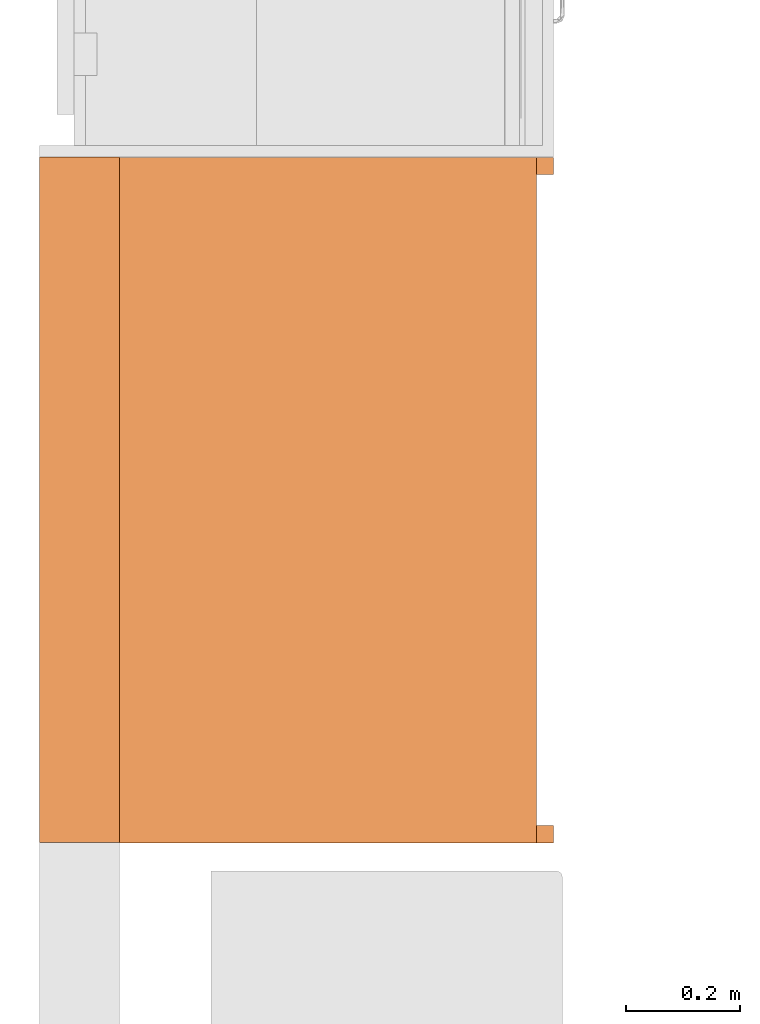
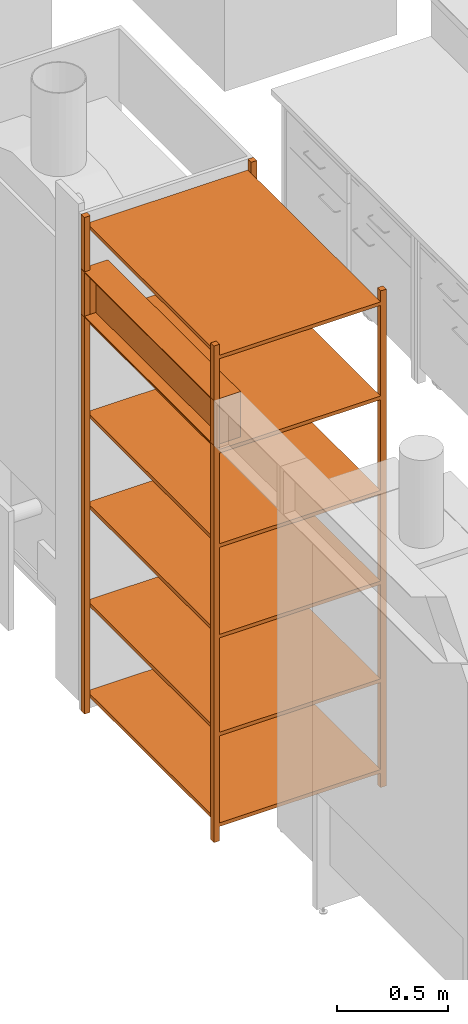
# One storey, part 3 of 43: 2 proxies.
"""IFC2X3 building model written with IfcOpenShell, lengths in metres."""

from ifc_helpers import new_model, entity, si_unit, converted_unit, derived_unit, direction, frame, frame_2d, origin, origin_2d_with_axis, place, context, subcontext, project, spatial, rectangle, extrude, source, transform, mapped, material, material_list, type_object, type_shapes, element, save


model = new_model("IFC2X3")

# Units and contexts
model_context = context("Model", 3, precision=1e-05, world=origin(), true_north=direction((6.12303176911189e-17, 1.0)))
body_context = subcontext(model_context, "Body", "Model", "MODEL_VIEW")
ifc_project = project(units=[si_unit("LENGTHUNIT", "METRE"), si_unit("AREAUNIT", "SQUARE_METRE"), si_unit("VOLUMEUNIT", "CUBIC_METRE"), converted_unit("PLANEANGLEUNIT", "DEGREE", entity("IfcRatioMeasure", 0.0174532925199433), si_unit("PLANEANGLEUNIT", "RADIAN"), dimensions=[0, 0, 0, 0, 0, 0, 0]), si_unit("MASSUNIT", "GRAM", prefix="KILO"), derived_unit("MASSDENSITYUNIT", [(si_unit("MASSUNIT", "GRAM", prefix="KILO"), 1), (si_unit("LENGTHUNIT", "METRE"), -3)]), derived_unit("MOMENTOFINERTIAUNIT", [(si_unit("LENGTHUNIT", "METRE"), 4)]), si_unit("TIMEUNIT", "SECOND"), si_unit("FREQUENCYUNIT", "HERTZ"), si_unit("THERMODYNAMICTEMPERATUREUNIT", "DEGREE_CELSIUS"), derived_unit("THERMALTRANSMITTANCEUNIT", [(si_unit("MASSUNIT", "GRAM", prefix="KILO"), 1), (si_unit("THERMODYNAMICTEMPERATUREUNIT", "KELVIN"), -1), (si_unit("TIMEUNIT", "SECOND"), -3)]), derived_unit("VOLUMETRICFLOWRATEUNIT", [(si_unit("LENGTHUNIT", "METRE"), 3), (si_unit("TIMEUNIT", "SECOND"), -1)]), si_unit("ELECTRICCURRENTUNIT", "AMPERE"), si_unit("ELECTRICVOLTAGEUNIT", "VOLT"), si_unit("POWERUNIT", "WATT"), si_unit("FORCEUNIT", "NEWTON", prefix="KILO"), si_unit("ILLUMINANCEUNIT", "LUX"), si_unit("LUMINOUSFLUXUNIT", "LUMEN"), si_unit("LUMINOUSINTENSITYUNIT", "CANDELA"), derived_unit("USERDEFINED", [(si_unit("MASSUNIT", "GRAM", prefix="KILO"), -1), (si_unit("LENGTHUNIT", "METRE"), -2), (si_unit("TIMEUNIT", "SECOND"), 3), (si_unit("LUMINOUSFLUXUNIT", "LUMEN"), 1)]), derived_unit("LINEARVELOCITYUNIT", [(si_unit("LENGTHUNIT", "METRE"), 1), (si_unit("TIMEUNIT", "SECOND"), -1)]), si_unit("PRESSUREUNIT", "PASCAL"), derived_unit("USERDEFINED", [(si_unit("LENGTHUNIT", "METRE"), -2), (si_unit("MASSUNIT", "GRAM", prefix="KILO"), 1), (si_unit("TIMEUNIT", "SECOND"), -2)]), derived_unit("LINEARFORCEUNIT", [(si_unit("MASSUNIT", "GRAM", prefix="KILO"), 1), (si_unit("LENGTHUNIT", "METRE"), 1), (si_unit("TIMEUNIT", "SECOND"), -2), (si_unit("LENGTHUNIT", "METRE"), -1)]), derived_unit("PLANARFORCEUNIT", [(si_unit("MASSUNIT", "GRAM", prefix="KILO"), 1), (si_unit("LENGTHUNIT", "METRE"), 1), (si_unit("TIMEUNIT", "SECOND"), -2), (si_unit("LENGTHUNIT", "METRE"), -2)])], contexts=[model_context])

# Site, building, storey
site_placement = place(None, origin())
site = spatial("IfcSite", under=ifc_project, at=site_placement, Name="Default", CompositionType="ELEMENT")
building_placement = place(site_placement, origin())
building = spatial("IfcBuilding", under=site, at=building_placement, CompositionType="ELEMENT")
storey_placement = place(building_placement, frame((0.0, 0.0, 3.0)))
storey = spatial("IfcBuildingStorey", under=building, at=storey_placement, Name="01 OG", CompositionType="ELEMENT", Elevation=3.0)

# Proxies
ifc_material_1 = material(Name="dh_EZ blau")
ifc_material_2 = material(Name="dh_Weiß")
ifc_material_list_1 = material_list([ifc_material_1, ifc_material_2])
ifc_material_3 = material(Name="dh_Blau")
ifc_material_list_2 = material_list([ifc_material_2, ifc_material_3, ifc_material_1])
building_element_proxy_type_1 = type_object("IfcBuildingElementProxyType", Name="dh_Einzel_ MEK:MEK 120", PredefinedType="NOTDEFINED", material=ifc_material_list_2)
shared_shape_1 = source(origin(), body_context, "Body", "SweptSolid", [
    extrude(rectangle(XDim=0.06, YDim=0.0299999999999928, at=origin_2d_with_axis()), frame((0.585000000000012, 0.33, 2.19499999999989), z_axis=(0.0, 0.0, 1.0), x_axis=(0.0, 1.0, 0.0)), (0.0, 0.0, 1.0), 0.240000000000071),
    extrude(rectangle(XDim=0.06, YDim=0.0299999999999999, at=origin_2d_with_axis()), frame((-0.584999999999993, 0.33, 2.19499999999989), z_axis=(0.0, 0.0, 1.0), x_axis=(0.0, 1.0, 0.0)), (0.0, 0.0, 1.0), 0.240000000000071),
    extrude(rectangle(XDim=0.06, YDim=1.20000000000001, at=frame_2d((0.0, -2.05391259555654e-15), x_axis=(1.0, 0.0))), frame((0.0, 0.33, 2.43499999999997), z_axis=(0.0, 0.0, 1.0), x_axis=(0.0, 1.0, 0.0)), (0.0, 0.0, 1.0), 0.00500000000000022),
    extrude(rectangle(XDim=1.20000000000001, YDim=0.14, at=frame_2d((-3.21964677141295e-15, -0.00333333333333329), x_axis=(1.0, 0.0))), frame((0.0, 0.293333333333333, 2.18999999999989)), (0.0, 0.0, 1.0), 0.00499999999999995),
    extrude(rectangle(XDim=0.08, YDim=1.20000000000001, at=frame_2d((0.0133333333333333, 2.55351295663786e-15), x_axis=(1.0, 0.0))), frame((0.0, 0.273333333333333, 2.43499999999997), z_axis=(0.0, 0.0, 1.0), x_axis=(0.0, -1.0, 0.0)), (0.0, 0.0, 1.0), 0.00499999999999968),
    extrude(rectangle(XDim=1.2, YDim=0.08, at=frame_2d((0.0, 3.46944695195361e-17), x_axis=(1.0, 0.0))), frame((0.0, 0.26, 2.195), z_axis=(0.0, 0.0, 1.0), x_axis=(-1.0, 0.0, 0.0)), (0.0, 0.0, 1.0), 0.239999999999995),
])
type_shapes(building_element_proxy_type_1, [shared_shape_1])
proxy_1_placement = place(storey_placement, frame((10.5100000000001, 13.0239999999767, 0.7), z_axis=(0.0, 0.0, 1.0), x_axis=(0.0, 1.0, 0.0)))
element("IfcBuildingElementProxy", 1, at=proxy_1_placement, inside=storey, type_object=building_element_proxy_type_1, material=ifc_material_list_1, Name="dh_Einzel_ MEK:MEK 120", ObjectType="dh_Einzel_ MEK:MEK 120", context=body_context, shape_type="MappedRepresentation", body=[
    mapped(shared_shape_1, transform((0.0, 0.0, 0.0), scale=1.0)),
])
ifc_material_4 = material(Name="Aluminium")
ifc_material_5 = material(Name="UHMW, schwarz")
ifc_material_list_3 = material_list([ifc_material_4, ifc_material_5])
ifc_material_list_4 = material_list([ifc_material_5, ifc_material_4])
building_element_proxy_type_2 = type_object("IfcBuildingElementProxyType", Name="dh_Stahlregal:Stahlregal-FB6-120", PredefinedType="NOTDEFINED", material=ifc_material_list_4)
shared_shape_2 = source(origin(), body_context, "Body", "SweptSolid", [
    extrude(rectangle(XDim=0.840000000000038, YDim=1.2, at=origin_2d_with_axis()), frame((0.0, -0.450000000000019, 0.0800000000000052), z_axis=(0.0, 0.0, 1.0), x_axis=(0.0, 1.0, 0.0)), (0.0, 0.0, 1.0), 0.0199999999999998),
    extrude(rectangle(XDim=0.840000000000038, YDim=1.2, at=origin_2d_with_axis()), frame((0.0, -0.450000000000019, 0.579999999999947), z_axis=(0.0, 0.0, 1.0), x_axis=(0.0, 1.0, 0.0)), (0.0, 0.0, 1.0), 0.0199999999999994),
    extrude(rectangle(XDim=0.840000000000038, YDim=1.2, at=origin_2d_with_axis()), frame((0.0, -0.450000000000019, 1.1199999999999), z_axis=(0.0, 0.0, 1.0), x_axis=(0.0, 1.0, 0.0)), (0.0, 0.0, 1.0), 0.0199999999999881),
    extrude(rectangle(XDim=0.840000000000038, YDim=1.2, at=origin_2d_with_axis()), frame((0.0, -0.450000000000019, 1.61999999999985), z_axis=(0.0, 0.0, 1.0), x_axis=(0.0, 1.0, 0.0)), (0.0, 0.0, 1.0), 0.0200000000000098),
    extrude(rectangle(XDim=0.840000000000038, YDim=1.2, at=origin_2d_with_axis()), frame((0.0, -0.450000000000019, 2.13999999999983), z_axis=(0.0, 0.0, 1.0), x_axis=(0.0, 1.0, 0.0)), (0.0, 0.0, 1.0), 0.0200000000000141),
    extrude(rectangle(XDim=0.840000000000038, YDim=1.2, at=origin_2d_with_axis()), frame((0.0, -0.450000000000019, 2.66), z_axis=(0.0, 0.0, 1.0), x_axis=(0.0, 1.0, 0.0)), (0.0, 0.0, 1.0), 0.0200000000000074),
    extrude(rectangle(XDim=0.0299999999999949, YDim=0.0300000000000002, at=frame_2d((3.38271077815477e-17, 0.0), x_axis=(1.0, 0.0))), frame((-0.585000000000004, -0.885000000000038, 2.735)), (0.0, 0.0, 1.0), 0.00500000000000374),
    extrude(rectangle(XDim=0.0300000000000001, YDim=0.0300000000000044, at=frame_2d((0.0, 6.76542155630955e-17), x_axis=(1.0, 0.0))), frame((0.584999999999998, -0.015, 2.735), z_axis=(0.0, 0.0, 1.0), x_axis=(0.0, 1.0, 0.0)), (0.0, 0.0, 1.0), 0.00500000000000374),
    extrude(rectangle(XDim=0.0299999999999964, YDim=0.03, at=frame_2d((-3.38271077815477e-17, 0.0), x_axis=(1.0, 0.0))), frame((-0.585000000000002, -0.015, 2.735)), (0.0, 0.0, 1.0), 0.00500000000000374),
    extrude(rectangle(XDim=0.0300000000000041, YDim=0.0300000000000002, at=frame_2d((6.76542155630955e-17, 0.0), x_axis=(1.0, 0.0))), frame((0.584999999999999, -0.885000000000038, 2.735)), (0.0, 0.0, 1.0), 0.00500000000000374),
    extrude(rectangle(XDim=0.03, YDim=0.0299999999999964, at=frame_2d((0.0, 3.38271077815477e-17), x_axis=(1.0, 0.0))), frame((-0.585000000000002, -0.015, 0.00499999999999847), z_axis=(0.0, 0.0, 1.0), x_axis=(0.0, -1.0, 0.0)), (0.0, 0.0, 1.0), 2.73),
    extrude(rectangle(XDim=0.0299999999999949, YDim=0.0300000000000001, at=frame_2d((3.38271077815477e-17, -6.76542155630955e-17), x_axis=(1.0, 0.0))), frame((-0.585000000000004, -0.885000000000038, 0.00499999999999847)), (0.0, 0.0, 1.0), 2.73),
    extrude(rectangle(XDim=0.0300000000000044, YDim=0.0300000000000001, at=frame_2d((-6.76542155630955e-17, 0.0), x_axis=(1.0, 0.0))), frame((0.584999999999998, -0.015, 0.00499999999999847)), (0.0, 0.0, 1.0), 2.73),
    extrude(rectangle(XDim=0.0300000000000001, YDim=0.0300000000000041, at=frame_2d((-6.76542155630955e-17, -6.76542155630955e-17), x_axis=(1.0, 0.0))), frame((0.584999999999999, -0.885000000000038, 0.00499999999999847), z_axis=(0.0, 0.0, 1.0), x_axis=(0.0, 1.0, 0.0)), (0.0, 0.0, 1.0), 2.73),
    extrude(rectangle(XDim=0.0300000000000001, YDim=0.0300000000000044, at=origin_2d_with_axis()), frame((0.584999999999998, -0.015, 0.0), z_axis=(0.0, 0.0, 1.0), x_axis=(0.0, -1.0, 0.0)), (0.0, 0.0, 1.0), 0.005),
    extrude(rectangle(XDim=0.0299999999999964, YDim=0.03, at=frame_2d((3.38271077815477e-17, 0.0), x_axis=(1.0, 0.0))), frame((-0.585000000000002, -0.015, 0.0), z_axis=(0.0, 0.0, 1.0), x_axis=(-1.0, 0.0, 0.0)), (0.0, 0.0, 1.0), 0.005),
    extrude(rectangle(XDim=0.0299999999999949, YDim=0.0300000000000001, at=frame_2d((-3.38271077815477e-17, 6.76542155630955e-17), x_axis=(1.0, 0.0))), frame((-0.585000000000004, -0.885000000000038, 0.0), z_axis=(0.0, 0.0, 1.0), x_axis=(-1.0, 0.0, 0.0)), (0.0, 0.0, 1.0), 0.005),
    extrude(rectangle(XDim=0.0300000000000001, YDim=0.0300000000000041, at=frame_2d((6.76542155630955e-17, 0.0), x_axis=(1.0, 0.0))), frame((0.584999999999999, -0.885000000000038, 0.0), z_axis=(0.0, 0.0, 1.0), x_axis=(0.0, -1.0, 0.0)), (0.0, 0.0, 1.0), 0.005),
])
type_shapes(building_element_proxy_type_2, [shared_shape_2])
proxy_2_placement = place(storey_placement, frame((10.1500000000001, 13.0235167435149, 0.7), z_axis=(0.0, 0.0, 1.0), x_axis=(0.0, 1.0, 0.0)))
element("IfcBuildingElementProxy", 2, at=proxy_2_placement, inside=storey, type_object=building_element_proxy_type_2, material=ifc_material_list_3, Name="dh_Stahlregal:Stahlregal-FB6-120", ObjectType="dh_Stahlregal:Stahlregal-FB6-120", context=body_context, shape_type="MappedRepresentation", body=[
    mapped(shared_shape_2, transform((0.0, 0.0, 0.0), scale=1.0)),
])

save(model, "model.ifc")
